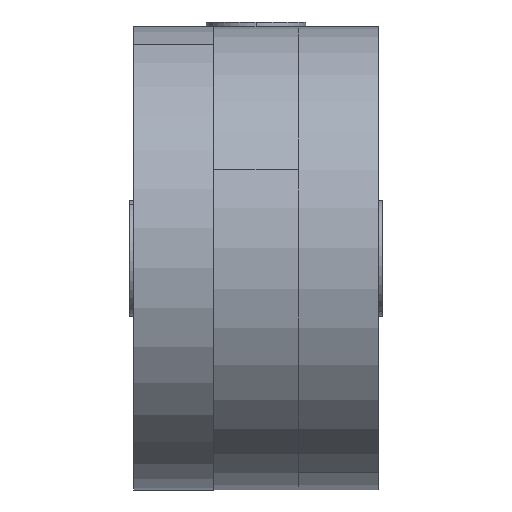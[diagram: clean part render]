
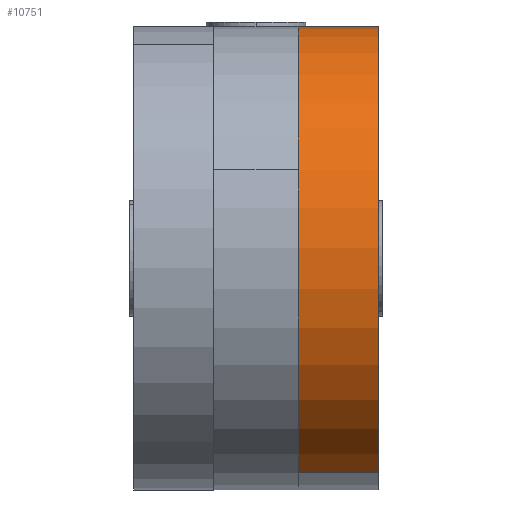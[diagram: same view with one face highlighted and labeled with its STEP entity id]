
A CAD part, left-side view. The second image highlights one B-rep face of the part: STEP entity #10751.
In plain terms, the highlighted cylindrical face has radius 34.938 mm (diameter 69.875 mm), a partial arc.
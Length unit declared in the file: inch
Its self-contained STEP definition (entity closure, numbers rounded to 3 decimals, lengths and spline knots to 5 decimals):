
#146 = CARTESIAN_POINT ( 'NONE',  ( -0.52638, -0.91007, -1.2708 ) ) ;
#498 = DIRECTION ( 'NONE',  ( 0.383, 0., 0.924 ) ) ;
#964 = CARTESIAN_POINT ( 'NONE',  ( 0.52638, -0.91007, 1.2708 ) ) ;
#1663 = VERTEX_POINT ( 'NONE', #3917 ) ;
#1759 = FACE_OUTER_BOUND ( 'NONE', #15988, .T. ) ;
#2206 = ORIENTED_EDGE ( 'NONE', *, *, #13803, .F. ) ;
#2684 = EDGE_CURVE ( 'NONE', #1663, #4538, #14997, .T. ) ;
#3078 = ORIENTED_EDGE ( 'NONE', *, *, #2684, .T. ) ;
#3609 = CARTESIAN_POINT ( 'NONE',  ( 0.52638, 0.025, 1.2708 ) ) ;
#3917 = CARTESIAN_POINT ( 'NONE',  ( -0.52638, 0.5, -1.2708 ) ) ;
#4103 = AXIS2_PLACEMENT_3D ( 'NONE', #15309, #7879, #498 ) ;
#4166 = DIRECTION ( 'NONE',  ( 0., -1., 0. ) ) ;
#4538 = VERTEX_POINT ( 'NONE', #6677 ) ;
#6029 = AXIS2_PLACEMENT_3D ( 'NONE', #11076, #6110, #9826 ) ;
#6110 = DIRECTION ( 'NONE',  ( 0., -1., 0. ) ) ;
#6654 = VERTEX_POINT ( 'NONE', #12665 ) ;
#6677 = CARTESIAN_POINT ( 'NONE',  ( -0.52638, 0.025, -1.2708 ) ) ;
#6718 = EDGE_CURVE ( 'NONE', #8885, #4538, #10338, .T. ) ;
#7084 = LINE ( 'NONE', #964, #9971 ) ;
#7549 = AXIS2_PLACEMENT_3D ( 'NONE', #11569, #4166, #12841 ) ;
#7879 = DIRECTION ( 'NONE',  ( 0., -1., 0. ) ) ;
#7910 = CYLINDRICAL_SURFACE ( 'NONE', #6029, 1.3755 ) ;
#8660 = DIRECTION ( 'NONE',  ( 0., -1., 0. ) ) ;
#8885 = VERTEX_POINT ( 'NONE', #3609 ) ;
#9590 = DIRECTION ( 'NONE',  ( 0., -1., 0. ) ) ;
#9826 = DIRECTION ( 'NONE',  ( 0.383, 0., 0.924 ) ) ;
#9971 = VECTOR ( 'NONE', #9590, 39.37008 ) ;
#10338 = CIRCLE ( 'NONE', #7549, 1.3755 ) ;
#10751 = ADVANCED_FACE ( 'NONE', ( #1759 ), #7910, .T. ) ;
#11076 = CARTESIAN_POINT ( 'NONE',  ( 0., -0.91007, 0. ) ) ;
#11569 = CARTESIAN_POINT ( 'NONE',  ( 0., 0.025, 0. ) ) ;
#11706 = VECTOR ( 'NONE', #8660, 39.37008 ) ;
#11743 = CIRCLE ( 'NONE', #4103, 1.3755 ) ;
#12665 = CARTESIAN_POINT ( 'NONE',  ( 0.52638, 0.5, 1.2708 ) ) ;
#12813 = ORIENTED_EDGE ( 'NONE', *, *, #13033, .T. ) ;
#12841 = DIRECTION ( 'NONE',  ( 0.383, 0., 0.924 ) ) ;
#13033 = EDGE_CURVE ( 'NONE', #6654, #1663, #11743, .T. ) ;
#13143 = ORIENTED_EDGE ( 'NONE', *, *, #6718, .F. ) ;
#13803 = EDGE_CURVE ( 'NONE', #6654, #8885, #7084, .T. ) ;
#14997 = LINE ( 'NONE', #146, #11706 ) ;
#15309 = CARTESIAN_POINT ( 'NONE',  ( 0., 0.5, 0. ) ) ;
#15988 = EDGE_LOOP ( 'NONE', ( #12813, #3078, #13143, #2206 ) ) ;
